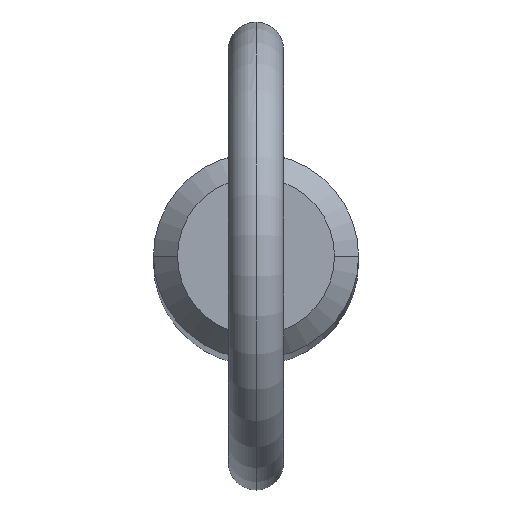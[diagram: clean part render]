
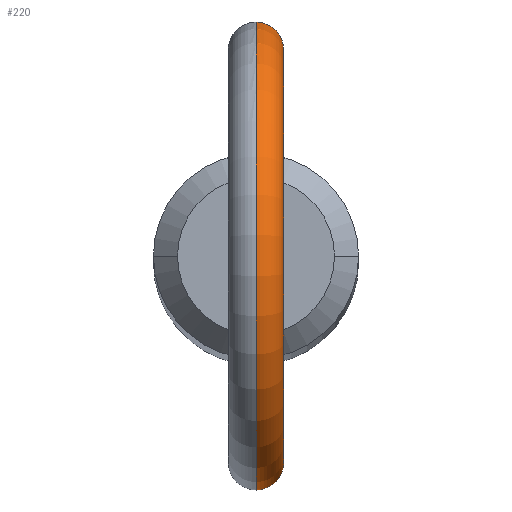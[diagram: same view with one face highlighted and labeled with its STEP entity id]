
A CAD part, top view. The second image highlights one B-rep face of the part: STEP entity #220.
In plain terms, the highlighted toroidal (fillet/blend) face has major radius 11.2 mm and minor radius 1.5 mm.
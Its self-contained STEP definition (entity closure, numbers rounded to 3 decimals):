
#1 = CARTESIAN_POINT ( 'NONE',  ( 0.716, -5.504, 176.752 ) ) ;
#18 = CARTESIAN_POINT ( 'NONE',  ( 0., 0., 188. ) ) ;
#19 = CARTESIAN_POINT ( 'NONE',  ( 1.509, 5.341, 178.053 ) ) ;
#35 = B_SPLINE_CURVE_WITH_KNOTS ( 'NONE', 3,
 ( #232, #404, #401, #402, #156, #195, #479, #190, #121, #478, #36, #132, #199, #202, #81, #236, #482, #131, #486, #241, #1, #78, #411, #525, #237, #284 ),
 .UNSPECIFIED., .F., .F.,
 ( 4, 2, 2, 2, 2, 2, 2, 2, 2, 2, 2, 2, 4 ),
 ( 0.005, 0.005, 0.005, 0.006, 0.006, 0.007, 0.007, 0.008, 0.008, 0.009, 0.009, 0.009, 0.01 ),
 .UNSPECIFIED. ) ;
#36 = CARTESIAN_POINT ( 'NONE',  ( 1.486, -5.347, 178.474 ) ) ;
#37 = CARTESIAN_POINT ( 'NONE',  ( 0., 5.55, 180.045 ) ) ;
#41 = EDGE_CURVE ( 'NONE', #54, #491, #139, .T. ) ;
#44 = DIRECTION ( 'NONE',  ( 0., 0., -1. ) ) ;
#54 = VERTEX_POINT ( 'NONE', #499 ) ;
#69 = CARTESIAN_POINT ( 'NONE',  ( 1.19, 5.421, 177.162 ) ) ;
#78 = CARTESIAN_POINT ( 'NONE',  ( 0.523, -5.526, 176.666 ) ) ;
#81 = CARTESIAN_POINT ( 'NONE',  ( 1.455, -5.356, 177.738 ) ) ;
#82 = ORIENTED_EDGE ( 'NONE', *, *, #526, .F. ) ;
#101 = CARTESIAN_POINT ( 'NONE',  ( 1.352, 5.383, 177.435 ) ) ;
#113 = CARTESIAN_POINT ( 'NONE',  ( 1.251, 5.407, 177.25 ) ) ;
#115 = EDGE_CURVE ( 'NONE', #117, #54, #444, .T. ) ;
#117 = VERTEX_POINT ( 'NONE', #429 ) ;
#121 = CARTESIAN_POINT ( 'NONE',  ( 1.295, -5.397, 179.082 ) ) ;
#131 = CARTESIAN_POINT ( 'NONE',  ( 1.055, -5.449, 177.005 ) ) ;
#132 = CARTESIAN_POINT ( 'NONE',  ( 1.503, -5.343, 178.159 ) ) ;
#139 = CIRCLE ( 'NONE', #304, 9.7 ) ;
#144 = CARTESIAN_POINT ( 'NONE',  ( 1.194, 5.422, 179.272 ) ) ;
#148 = CARTESIAN_POINT ( 'NONE',  ( 1.003, 5.459, 179.525 ) ) ;
#154 = DIRECTION ( 'NONE',  ( 1., 0., 0. ) ) ;
#156 = CARTESIAN_POINT ( 'NONE',  ( 0.515, -5.527, 179.922 ) ) ;
#182 = CARTESIAN_POINT ( 'NONE',  ( 0.419, 5.535, 176.632 ) ) ;
#189 = CARTESIAN_POINT ( 'NONE',  ( 0.212, 5.547, 176.588 ) ) ;
#190 = CARTESIAN_POINT ( 'NONE',  ( 1.194, -5.422, 179.271 ) ) ;
#195 = CARTESIAN_POINT ( 'NONE',  ( 0.786, -5.497, 179.757 ) ) ;
#199 = CARTESIAN_POINT ( 'NONE',  ( 1.5, -5.343, 178.054 ) ) ;
#202 = CARTESIAN_POINT ( 'NONE',  ( 1.477, -5.35, 177.844 ) ) ;
#220 = ADVANCED_FACE ( 'NONE', ( #476 ), #377, .T. ) ;
#224 = CARTESIAN_POINT ( 'NONE',  ( 0.933, 5.472, 179.604 ) ) ;
#232 = CARTESIAN_POINT ( 'NONE',  ( 0., -5.55, 180.045 ) ) ;
#236 = CARTESIAN_POINT ( 'NONE',  ( 1.363, -5.38, 177.434 ) ) ;
#237 = CARTESIAN_POINT ( 'NONE',  ( 0.107, -5.55, 176.577 ) ) ;
#239 = CARTESIAN_POINT ( 'NONE',  ( 0.422, 5.537, 179.978 ) ) ;
#241 = CARTESIAN_POINT ( 'NONE',  ( 0.807, -5.492, 176.806 ) ) ;
#251 = DIRECTION ( 'NONE',  ( 1., 0., 0. ) ) ;
#258 = AXIS2_PLACEMENT_3D ( 'NONE', #18, #289, #44 ) ;
#264 = CARTESIAN_POINT ( 'NONE',  ( 0., 0., 188. ) ) ;
#270 = CARTESIAN_POINT ( 'NONE',  ( 0., -5.55, 176.577 ) ) ;
#272 = ORIENTED_EDGE ( 'NONE', *, *, #327, .T. ) ;
#278 = CARTESIAN_POINT ( 'NONE',  ( 0.694, 5.507, 179.814 ) ) ;
#281 = CARTESIAN_POINT ( 'NONE',  ( 0.213, 5.55, 180.045 ) ) ;
#284 = CARTESIAN_POINT ( 'NONE',  ( 0., -5.55, 176.577 ) ) ;
#289 = DIRECTION ( 'NONE',  ( 1., 0., 0. ) ) ;
#301 = CARTESIAN_POINT ( 'NONE',  ( 0., 5.55, 176.577 ) ) ;
#303 = CARTESIAN_POINT ( 'NONE',  ( 1.294, 5.398, 179.085 ) ) ;
#304 = AXIS2_PLACEMENT_3D ( 'NONE', #343, #251, #459 ) ;
#306 = CARTESIAN_POINT ( 'NONE',  ( 1.485, 5.348, 178.478 ) ) ;
#309 = ORIENTED_EDGE ( 'NONE', *, *, #41, .F. ) ;
#312 = CARTESIAN_POINT ( 'NONE',  ( 0.81, 5.494, 176.795 ) ) ;
#327 = EDGE_CURVE ( 'NONE', #117, #421, #453, .T. ) ;
#343 = CARTESIAN_POINT ( 'NONE',  ( 0., 0., 188. ) ) ;
#352 = EDGE_LOOP ( 'NONE', ( #503, #272, #82, #309 ) ) ;
#360 = DIRECTION ( 'NONE',  ( 0., 0., -1. ) ) ;
#377 = TOROIDAL_SURFACE ( 'NONE', #258, 11.2, 1.5 ) ;
#392 = CARTESIAN_POINT ( 'NONE',  ( 0.522, 5.526, 176.665 ) ) ;
#395 = CARTESIAN_POINT ( 'NONE',  ( 0.984, 5.464, 176.924 ) ) ;
#398 = CARTESIAN_POINT ( 'NONE',  ( 0., -5.55, 180.045 ) ) ;
#401 = CARTESIAN_POINT ( 'NONE',  ( 0.214, -5.547, 180.028 ) ) ;
#402 = CARTESIAN_POINT ( 'NONE',  ( 0.417, -5.535, 179.967 ) ) ;
#404 = CARTESIAN_POINT ( 'NONE',  ( 0.106, -5.55, 180.045 ) ) ;
#411 = CARTESIAN_POINT ( 'NONE',  ( 0.421, -5.535, 176.632 ) ) ;
#421 = VERTEX_POINT ( 'NONE', #270 ) ;
#429 = CARTESIAN_POINT ( 'NONE',  ( 0., 5.55, 176.577 ) ) ;
#444 = B_SPLINE_CURVE_WITH_KNOTS ( 'NONE', 3,
 ( #301, #500, #189, #182, #392, #312, #395, #69, #113, #101, #472, #506, #19, #306, #465, #303, #144, #148, #224, #511, #278, #239, #281, #37 ),
 .UNSPECIFIED., .F., .F.,
 ( 4, 2, 2, 2, 2, 2, 2, 2, 2, 2, 2, 4 ),
 ( 0.001, 0.001, 0.001, 0.002, 0.002, 0.002, 0.003, 0.004, 0.004, 0.005, 0.005, 0.006 ),
 .UNSPECIFIED. ) ;
#453 = CIRCLE ( 'NONE', #502, 12.7 ) ;
#459 = DIRECTION ( 'NONE',  ( 0., 0., -1. ) ) ;
#465 = CARTESIAN_POINT ( 'NONE',  ( 1.44, 5.36, 178.688 ) ) ;
#472 = CARTESIAN_POINT ( 'NONE',  ( 1.393, 5.372, 177.533 ) ) ;
#476 = FACE_OUTER_BOUND ( 'NONE', #352, .T. ) ;
#478 = CARTESIAN_POINT ( 'NONE',  ( 1.44, -5.36, 178.686 ) ) ;
#479 = CARTESIAN_POINT ( 'NONE',  ( 0.941, -5.471, 179.607 ) ) ;
#482 = CARTESIAN_POINT ( 'NONE',  ( 1.26, -5.407, 177.243 ) ) ;
#486 = CARTESIAN_POINT ( 'NONE',  ( 0.977, -5.464, 176.932 ) ) ;
#491 = VERTEX_POINT ( 'NONE', #398 ) ;
#499 = CARTESIAN_POINT ( 'NONE',  ( 0., 5.55, 180.045 ) ) ;
#500 = CARTESIAN_POINT ( 'NONE',  ( 0.107, 5.55, 176.577 ) ) ;
#502 = AXIS2_PLACEMENT_3D ( 'NONE', #264, #154, #360 ) ;
#503 = ORIENTED_EDGE ( 'NONE', *, *, #115, .F. ) ;
#506 = CARTESIAN_POINT ( 'NONE',  ( 1.486, 5.348, 177.838 ) ) ;
#511 = CARTESIAN_POINT ( 'NONE',  ( 0.779, 5.496, 179.748 ) ) ;
#525 = CARTESIAN_POINT ( 'NONE',  ( 0.213, -5.547, 176.588 ) ) ;
#526 = EDGE_CURVE ( 'NONE', #491, #421, #35, .T. ) ;
